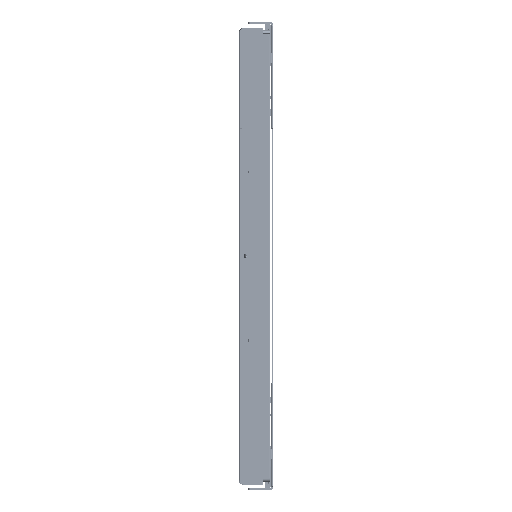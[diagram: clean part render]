
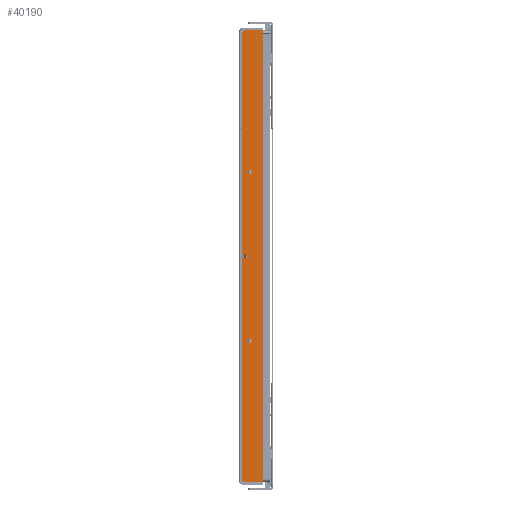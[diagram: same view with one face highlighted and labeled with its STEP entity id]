
A CAD part, left-side view. The second image highlights one B-rep face of the part: STEP entity #40190.
In plain terms, the highlighted planar face has unit normal (-1, -0.002, 0) as drawn and (0, 0, 1) by its records, which use the part's own axes.
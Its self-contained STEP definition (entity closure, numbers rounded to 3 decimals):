
#2884=PLANE('',#42910);
#4349=LINE('',#58043,#8146);
#4355=LINE('',#58054,#8152);
#4360=LINE('',#58066,#8157);
#4363=LINE('',#58071,#8160);
#4365=LINE('',#58074,#8162);
#4366=LINE('',#58076,#8163);
#8146=VECTOR('',#47264,10.);
#8152=VECTOR('',#47272,10.);
#8157=VECTOR('',#47281,10.);
#8160=VECTOR('',#47286,10.);
#8162=VECTOR('',#47290,10.);
#8163=VECTOR('',#47293,10.);
#11621=FACE_BOUND('',#14343,.T.);
#11622=FACE_BOUND('',#14344,.T.);
#11623=FACE_BOUND('',#14345,.T.);
#12120=FACE_OUTER_BOUND('',#14342,.T.);
#14342=EDGE_LOOP('',(#28817,#28818,#28819,#28820,#28821,#28822));
#14343=EDGE_LOOP('',(#28823));
#14344=EDGE_LOOP('',(#28824));
#14345=EDGE_LOOP('',(#28825));
#16735=CIRCLE('',#42895,5.);
#16737=CIRCLE('',#42898,5.);
#16739=CIRCLE('',#42901,5.);
#18301=VERTEX_POINT('',#58026);
#18303=VERTEX_POINT('',#58031);
#18305=VERTEX_POINT('',#58036);
#18307=VERTEX_POINT('',#58041);
#18308=VERTEX_POINT('',#58042);
#18312=VERTEX_POINT('',#58052);
#18316=VERTEX_POINT('',#58064);
#18317=VERTEX_POINT('',#58065);
#18318=VERTEX_POINT('',#58070);
#22391=EDGE_CURVE('',#18301,#18301,#16735,.T.);
#22393=EDGE_CURVE('',#18303,#18303,#16737,.T.);
#22395=EDGE_CURVE('',#18305,#18305,#16739,.T.);
#22397=EDGE_CURVE('',#18307,#18308,#4349,.T.);
#22403=EDGE_CURVE('',#18312,#18307,#4355,.T.);
#22408=EDGE_CURVE('',#18316,#18317,#4360,.T.);
#22411=EDGE_CURVE('',#18317,#18318,#4363,.T.);
#22413=EDGE_CURVE('',#18308,#18316,#4365,.T.);
#22414=EDGE_CURVE('',#18318,#18312,#4366,.T.);
#28817=ORIENTED_EDGE('',*,*,#22397,.F.);
#28818=ORIENTED_EDGE('',*,*,#22403,.F.);
#28819=ORIENTED_EDGE('',*,*,#22414,.F.);
#28820=ORIENTED_EDGE('',*,*,#22411,.F.);
#28821=ORIENTED_EDGE('',*,*,#22408,.F.);
#28822=ORIENTED_EDGE('',*,*,#22413,.F.);
#28823=ORIENTED_EDGE('',*,*,#22391,.T.);
#28824=ORIENTED_EDGE('',*,*,#22393,.T.);
#28825=ORIENTED_EDGE('',*,*,#22395,.T.);
#40190=ADVANCED_FACE('',(#12120,#11621,#11622,#11623),#2884,.T.);
#42895=AXIS2_PLACEMENT_3D('',#58027,#47246,#47247);
#42898=AXIS2_PLACEMENT_3D('',#58032,#47252,#47253);
#42901=AXIS2_PLACEMENT_3D('',#58037,#47258,#47259);
#42910=AXIS2_PLACEMENT_3D('',#58077,#47294,#47295);
#47246=DIRECTION('center_axis',(0.,0.,-1.));
#47247=DIRECTION('ref_axis',(1.,0.,0.));
#47252=DIRECTION('center_axis',(0.,0.,-1.));
#47253=DIRECTION('ref_axis',(1.,0.,0.));
#47258=DIRECTION('center_axis',(0.,0.,-1.));
#47259=DIRECTION('ref_axis',(1.,0.,0.));
#47264=DIRECTION('',(-0.707,-0.707,0.));
#47272=DIRECTION('',(0.,-1.,0.));
#47281=DIRECTION('',(-0.707,0.707,0.));
#47286=DIRECTION('',(0.,1.,0.));
#47290=DIRECTION('',(-1.,0.,0.));
#47293=DIRECTION('',(1.,0.,0.));
#47294=DIRECTION('center_axis',(0.,0.,1.));
#47295=DIRECTION('ref_axis',(1.,0.,0.));
#58026=CARTESIAN_POINT('',(205.,-5.,5.));
#58027=CARTESIAN_POINT('Origin',(200.,-5.,5.));
#58031=CARTESIAN_POINT('',(5.,-17.,5.));
#58032=CARTESIAN_POINT('Origin',(0.,-17.,5.));
#58036=CARTESIAN_POINT('',(-195.,-5.,5.));
#58037=CARTESIAN_POINT('Origin',(-200.,-5.,5.));
#58041=CARTESIAN_POINT('',(537.,-20.,5.));
#58042=CARTESIAN_POINT('',(532.,-25.,5.));
#58043=CARTESIAN_POINT('',(406.5,-150.5,5.));
#58052=CARTESIAN_POINT('',(537.,25.,5.));
#58054=CARTESIAN_POINT('',(537.,25.,5.));
#58064=CARTESIAN_POINT('',(-532.,-25.,5.));
#58065=CARTESIAN_POINT('',(-537.,-20.,5.));
#58066=CARTESIAN_POINT('',(-406.5,-150.5,5.));
#58070=CARTESIAN_POINT('',(-537.,25.,5.));
#58071=CARTESIAN_POINT('',(-537.,-25.,5.));
#58074=CARTESIAN_POINT('',(537.,-25.,5.));
#58076=CARTESIAN_POINT('',(-537.,25.,5.));
#58077=CARTESIAN_POINT('Origin',(0.,0.,5.));
